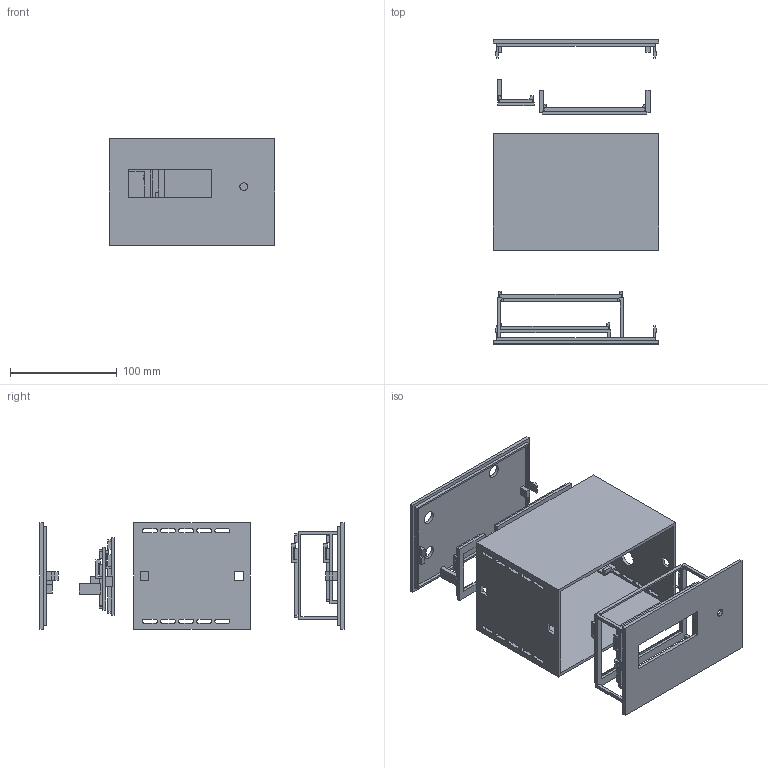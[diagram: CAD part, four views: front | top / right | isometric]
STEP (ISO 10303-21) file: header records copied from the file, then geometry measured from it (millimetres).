
FILE_DESCRIPTION(('Open CASCADE Model'),'2;1');
FILE_NAME('Open CASCADE Shape Model','2026-11-05T13:32:29',('Author'),( 'Open CASCADE'),'Open CASCADE STEP processor 7.8','Open CASCADE 7.8' ,'Unknown');
FILE_SCHEMA(('AUTOMOTIVE_DESIGN { 1 0 10303 214 1 1 1 1 }'));
Length unit declared in the file: millimetre
Products named in the file (6): Boitier_5_pieces_vue_eclatee; 05_Berceau_XL4015; 01_Coque_ouverte; 02_Facade_supports_LCD_A; 03_Berceau_B; 04_Panneau_arriere
Assembly tree (5 placements, depth 2):
  Boitier_5_pieces_vue_eclatee
    05_Berceau_XL4015
    01_Coque_ouverte
    02_Facade_supports_LCD_A
    03_Berceau_B
    04_Panneau_arriere
Bounding box: 155 x 285 x 100 mm (x, y, z)
Volume: 295666.2 mm3; surface area: 230996 mm2
Topology: 5 solids, 5 shells, 543 faces, 1567 edges, 1042 vertices
Faces by surface type: plane 498, cylinder 45
Full cylindrical faces by diameter (mm): 7.2 x1, 12.4 x1, 12.5 x2, 16 x1
Entity records: 38237 total; most frequent: CARTESIAN_POINT 6292, DIRECTION 5889, LINE 4521, VECTOR 4521, ORIENTED_EDGE 3134, PCURVE 3134, DEFINITIONAL_REPRESENTATION 3134, EDGE_CURVE 1567
